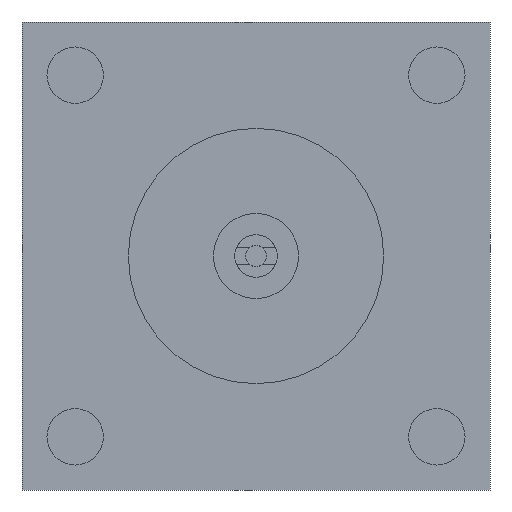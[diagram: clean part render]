
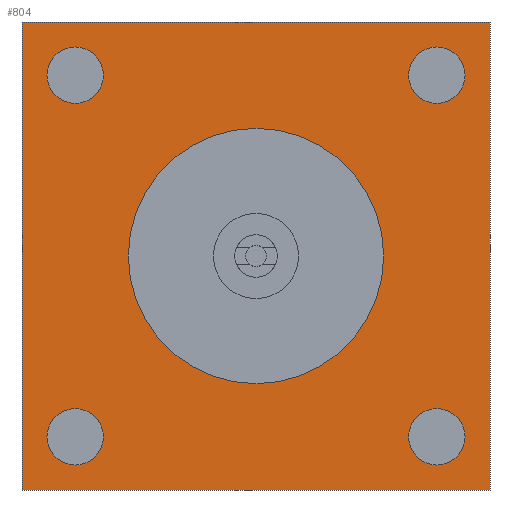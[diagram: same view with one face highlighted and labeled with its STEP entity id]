
A CAD part, left-side view. The second image highlights one B-rep face of the part: STEP entity #804.
In plain terms, the highlighted planar face has unit normal (-1, 0, 0).
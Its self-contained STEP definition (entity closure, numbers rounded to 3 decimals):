
#16 = DIRECTION ( 'NONE',  ( 0., 0., 1. ) ) ;
#27 = DIRECTION ( 'NONE',  ( 0., 0., 1. ) ) ;
#54 = DIRECTION ( 'NONE',  ( -1., 0., 0. ) ) ;
#66 = ORIENTED_EDGE ( 'NONE', *, *, #494, .T. ) ;
#84 = VECTOR ( 'NONE', #568, 1000. ) ;
#86 = DIRECTION ( 'NONE',  ( 0., 1., 0. ) ) ;
#113 = VERTEX_POINT ( 'NONE', #1426 ) ;
#129 = DIRECTION ( 'NONE',  ( 0., 0., 1. ) ) ;
#132 = FACE_OUTER_BOUND ( 'NONE', #1656, .T. ) ;
#138 = EDGE_LOOP ( 'NONE', ( #770, #258 ) ) ;
#154 = CARTESIAN_POINT ( 'NONE',  ( -25., -85., 98.25 ) ) ;
#186 = CARTESIAN_POINT ( 'NONE',  ( -25., 85., 85. ) ) ;
#187 = FACE_BOUND ( 'NONE', #748, .T. ) ;
#231 = VECTOR ( 'NONE', #904, 1000. ) ;
#255 = EDGE_CURVE ( 'NONE', #113, #1810, #1037, .T. ) ;
#258 = ORIENTED_EDGE ( 'NONE', *, *, #420, .F. ) ;
#267 = CARTESIAN_POINT ( 'NONE',  ( -25., 110., 110. ) ) ;
#308 = ORIENTED_EDGE ( 'NONE', *, *, #1692, .F. ) ;
#382 = EDGE_CURVE ( 'NONE', #1263, #1787, #477, .T. ) ;
#385 = VERTEX_POINT ( 'NONE', #434 ) ;
#391 = CARTESIAN_POINT ( 'NONE',  ( -25., 85., -71.75 ) ) ;
#418 = CARTESIAN_POINT ( 'NONE',  ( -25., -110., 110. ) ) ;
#420 = EDGE_CURVE ( 'NONE', #1024, #1154, #429, .T. ) ;
#429 = CIRCLE ( 'NONE', #639, 13.25 ) ;
#434 = CARTESIAN_POINT ( 'NONE',  ( -25., -110., -110. ) ) ;
#437 = AXIS2_PLACEMENT_3D ( 'NONE', #1041, #54, #1737 ) ;
#449 = CARTESIAN_POINT ( 'NONE',  ( -25., 0., 60. ) ) ;
#450 = CIRCLE ( 'NONE', #975, 13.25 ) ;
#455 = PLANE ( 'NONE',  #757 ) ;
#466 = EDGE_LOOP ( 'NONE', ( #1564, #308 ) ) ;
#477 = LINE ( 'NONE', #1813, #84 ) ;
#492 = CARTESIAN_POINT ( 'NONE',  ( -25., 85., -98.25 ) ) ;
#494 = EDGE_CURVE ( 'NONE', #385, #1706, #1371, .T. ) ;
#516 = FACE_BOUND ( 'NONE', #1134, .T. ) ;
#517 = CARTESIAN_POINT ( 'NONE',  ( -25., 110., -110. ) ) ;
#521 = VECTOR ( 'NONE', #86, 1000. ) ;
#546 = ORIENTED_EDGE ( 'NONE', *, *, #382, .T. ) ;
#554 = FACE_BOUND ( 'NONE', #1709, .T. ) ;
#555 = EDGE_CURVE ( 'NONE', #1154, #1024, #1253, .T. ) ;
#565 = CARTESIAN_POINT ( 'NONE',  ( -25., -85., -85. ) ) ;
#568 = DIRECTION ( 'NONE',  ( 0., 0., -1. ) ) ;
#577 = DIRECTION ( 'NONE',  ( -1., 0., 0. ) ) ;
#580 = ORIENTED_EDGE ( 'NONE', *, *, #896, .F. ) ;
#591 = DIRECTION ( 'NONE',  ( 0., 0., 1. ) ) ;
#624 = DIRECTION ( 'NONE',  ( -1., 0., 0. ) ) ;
#639 = AXIS2_PLACEMENT_3D ( 'NONE', #1642, #1502, #16 ) ;
#677 = VERTEX_POINT ( 'NONE', #1025 ) ;
#701 = AXIS2_PLACEMENT_3D ( 'NONE', #1668, #1557, #1574 ) ;
#715 = CIRCLE ( 'NONE', #872, 13.25 ) ;
#748 = EDGE_LOOP ( 'NONE', ( #1768, #580 ) ) ;
#757 = AXIS2_PLACEMENT_3D ( 'NONE', #987, #1397, #1407 ) ;
#770 = ORIENTED_EDGE ( 'NONE', *, *, #555, .F. ) ;
#804 = ADVANCED_FACE ( 'NONE', ( #1230, #873, #187, #554, #516, #132 ), #455, .F. ) ;
#810 = CARTESIAN_POINT ( 'NONE',  ( -25., 110., -110. ) ) ;
#829 = VERTEX_POINT ( 'NONE', #492 ) ;
#872 = AXIS2_PLACEMENT_3D ( 'NONE', #1387, #1536, #1683 ) ;
#873 = FACE_BOUND ( 'NONE', #138, .T. ) ;
#879 = LINE ( 'NONE', #810, #231 ) ;
#885 = ORIENTED_EDGE ( 'NONE', *, *, #994, .F. ) ;
#886 = EDGE_CURVE ( 'NONE', #677, #1805, #1418, .T. ) ;
#890 = CIRCLE ( 'NONE', #701, 13.25 ) ;
#896 = EDGE_CURVE ( 'NONE', #1615, #1259, #1370, .T. ) ;
#904 = DIRECTION ( 'NONE',  ( 0., -1., 0. ) ) ;
#927 = ORIENTED_EDGE ( 'NONE', *, *, #255, .F. ) ;
#929 = ORIENTED_EDGE ( 'NONE', *, *, #1058, .F. ) ;
#975 = AXIS2_PLACEMENT_3D ( 'NONE', #1383, #577, #591 ) ;
#987 = CARTESIAN_POINT ( 'NONE',  ( -25., 0., 0. ) ) ;
#994 = EDGE_CURVE ( 'NONE', #829, #1570, #890, .T. ) ;
#1004 = DIRECTION ( 'NONE',  ( -1., 0., 0. ) ) ;
#1016 = VECTOR ( 'NONE', #1353, 1000. ) ;
#1022 = ORIENTED_EDGE ( 'NONE', *, *, #1414, .T. ) ;
#1024 = VERTEX_POINT ( 'NONE', #1364 ) ;
#1025 = CARTESIAN_POINT ( 'NONE',  ( -25., 0., -60. ) ) ;
#1026 = ORIENTED_EDGE ( 'NONE', *, *, #1621, .F. ) ;
#1037 = CIRCLE ( 'NONE', #1313, 13.25 ) ;
#1041 = CARTESIAN_POINT ( 'NONE',  ( -25., -85., 85. ) ) ;
#1058 = EDGE_CURVE ( 'NONE', #1570, #829, #450, .T. ) ;
#1076 = AXIS2_PLACEMENT_3D ( 'NONE', #1662, #1766, #1772 ) ;
#1104 = CARTESIAN_POINT ( 'NONE',  ( -25., -85., -71.75 ) ) ;
#1130 = CARTESIAN_POINT ( 'NONE',  ( -25., 0., 0. ) ) ;
#1134 = EDGE_LOOP ( 'NONE', ( #929, #885 ) ) ;
#1137 = DIRECTION ( 'NONE',  ( -1., 0., 0. ) ) ;
#1141 = DIRECTION ( 'NONE',  ( 0., 0., -1. ) ) ;
#1154 = VERTEX_POINT ( 'NONE', #154 ) ;
#1180 = CARTESIAN_POINT ( 'NONE',  ( -25., -110., 110. ) ) ;
#1207 = CIRCLE ( 'NONE', #1554, 60. ) ;
#1211 = AXIS2_PLACEMENT_3D ( 'NONE', #1130, #1137, #1141 ) ;
#1230 = FACE_BOUND ( 'NONE', #466, .T. ) ;
#1253 = CIRCLE ( 'NONE', #437, 13.25 ) ;
#1259 = VERTEX_POINT ( 'NONE', #1104 ) ;
#1263 = VERTEX_POINT ( 'NONE', #1355 ) ;
#1292 = CARTESIAN_POINT ( 'NONE',  ( -25., 0., 0. ) ) ;
#1300 = DIRECTION ( 'NONE',  ( -1., 0., 0. ) ) ;
#1313 = AXIS2_PLACEMENT_3D ( 'NONE', #186, #1004, #27 ) ;
#1341 = CARTESIAN_POINT ( 'NONE',  ( -25., -85., -98.25 ) ) ;
#1353 = DIRECTION ( 'NONE',  ( 0., 0., 1. ) ) ;
#1355 = CARTESIAN_POINT ( 'NONE',  ( -25., 110., 110. ) ) ;
#1364 = CARTESIAN_POINT ( 'NONE',  ( -25., -85., 71.75 ) ) ;
#1366 = DIRECTION ( 'NONE',  ( 0., 0., -1. ) ) ;
#1370 = CIRCLE ( 'NONE', #1592, 13.25 ) ;
#1371 = LINE ( 'NONE', #418, #1016 ) ;
#1383 = CARTESIAN_POINT ( 'NONE',  ( -25., 85., -85. ) ) ;
#1387 = CARTESIAN_POINT ( 'NONE',  ( -25., -85., -85. ) ) ;
#1397 = DIRECTION ( 'NONE',  ( 1., 0., 0. ) ) ;
#1407 = DIRECTION ( 'NONE',  ( 0., 0., -1. ) ) ;
#1414 = EDGE_CURVE ( 'NONE', #1706, #1263, #1606, .T. ) ;
#1418 = CIRCLE ( 'NONE', #1211, 60. ) ;
#1426 = CARTESIAN_POINT ( 'NONE',  ( -25., 85., 71.75 ) ) ;
#1429 = EDGE_CURVE ( 'NONE', #1787, #385, #879, .T. ) ;
#1502 = DIRECTION ( 'NONE',  ( -1., 0., 0. ) ) ;
#1536 = DIRECTION ( 'NONE',  ( -1., 0., 0. ) ) ;
#1548 = ORIENTED_EDGE ( 'NONE', *, *, #1429, .T. ) ;
#1554 = AXIS2_PLACEMENT_3D ( 'NONE', #1292, #1300, #1366 ) ;
#1557 = DIRECTION ( 'NONE',  ( -1., 0., 0. ) ) ;
#1564 = ORIENTED_EDGE ( 'NONE', *, *, #886, .F. ) ;
#1570 = VERTEX_POINT ( 'NONE', #391 ) ;
#1574 = DIRECTION ( 'NONE',  ( 0., 0., 1. ) ) ;
#1592 = AXIS2_PLACEMENT_3D ( 'NONE', #565, #624, #129 ) ;
#1606 = LINE ( 'NONE', #267, #521 ) ;
#1615 = VERTEX_POINT ( 'NONE', #1341 ) ;
#1621 = EDGE_CURVE ( 'NONE', #1810, #113, #1681, .T. ) ;
#1642 = CARTESIAN_POINT ( 'NONE',  ( -25., -85., 85. ) ) ;
#1656 = EDGE_LOOP ( 'NONE', ( #1548, #66, #1022, #546 ) ) ;
#1662 = CARTESIAN_POINT ( 'NONE',  ( -25., 85., 85. ) ) ;
#1668 = CARTESIAN_POINT ( 'NONE',  ( -25., 85., -85. ) ) ;
#1681 = CIRCLE ( 'NONE', #1076, 13.25 ) ;
#1683 = DIRECTION ( 'NONE',  ( 0., 0., 1. ) ) ;
#1692 = EDGE_CURVE ( 'NONE', #1805, #677, #1207, .T. ) ;
#1706 = VERTEX_POINT ( 'NONE', #1180 ) ;
#1709 = EDGE_LOOP ( 'NONE', ( #1026, #927 ) ) ;
#1737 = DIRECTION ( 'NONE',  ( 0., 0., 1. ) ) ;
#1766 = DIRECTION ( 'NONE',  ( -1., 0., 0. ) ) ;
#1768 = ORIENTED_EDGE ( 'NONE', *, *, #1789, .F. ) ;
#1772 = DIRECTION ( 'NONE',  ( 0., 0., 1. ) ) ;
#1787 = VERTEX_POINT ( 'NONE', #517 ) ;
#1789 = EDGE_CURVE ( 'NONE', #1259, #1615, #715, .T. ) ;
#1805 = VERTEX_POINT ( 'NONE', #449 ) ;
#1810 = VERTEX_POINT ( 'NONE', #1826 ) ;
#1813 = CARTESIAN_POINT ( 'NONE',  ( -25., 110., 110. ) ) ;
#1826 = CARTESIAN_POINT ( 'NONE',  ( -25., 85., 98.25 ) ) ;
